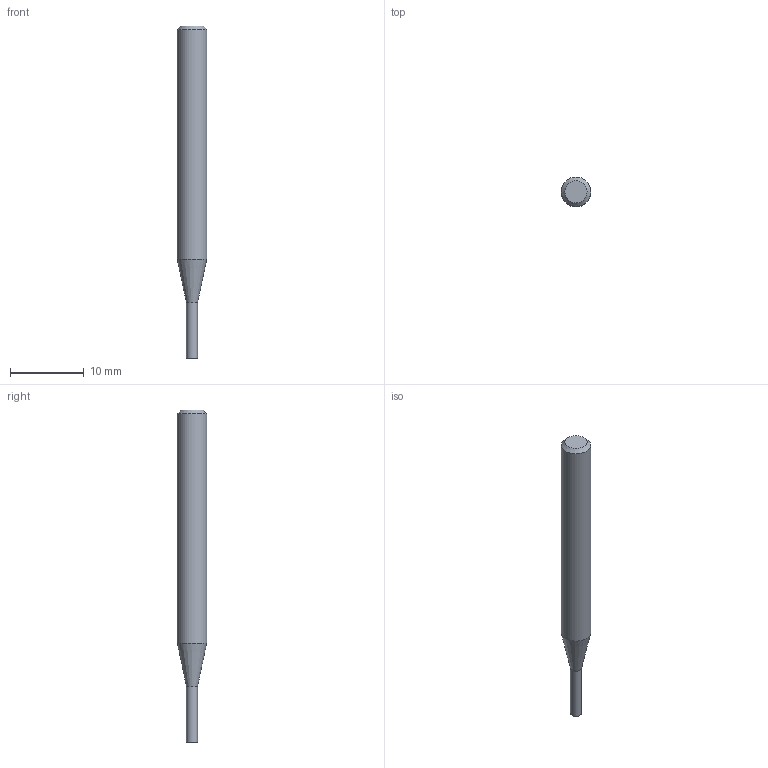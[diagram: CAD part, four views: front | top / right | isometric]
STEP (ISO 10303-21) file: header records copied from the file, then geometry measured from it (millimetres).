
FILE_DESCRIPTION((''),'2;1');
FILE_NAME('C:\Users\nsx150\AppData\Local\Temp\Mastercam 2021\E36A1X9CCL\TEMP.step','2023-04-21T15:28:07',(''),(''),'STEP Write','Mastercam 2021 ... CNC Software, Inc.','');
FILE_SCHEMA(('AUTOMOTIVE_DESIGN'));
Length unit declared in the file: millimetre
Products named in the file (1): None
Bounding box: 4 x 4 x 45 mm (x, y, z)
Volume: 446.5 mm3; surface area: 498.5 mm2
Topology: 2 solids, 2 shells, 8 faces, 10 edges, 6 vertices
Faces by surface type: plane 4, cylinder 2, cone 2
Full cylindrical faces by diameter (mm): 1.5 x1, 4 x1
Entity records: 190 total; most frequent: DIRECTION 32, CARTESIAN_POINT 22, AXIS2_PLACEMENT_3D 16, ORIENTED_EDGE 12, EDGE_LOOP 12, STYLED_ITEM 11, ADVANCED_FACE 8, VERTEX_POINT 6
